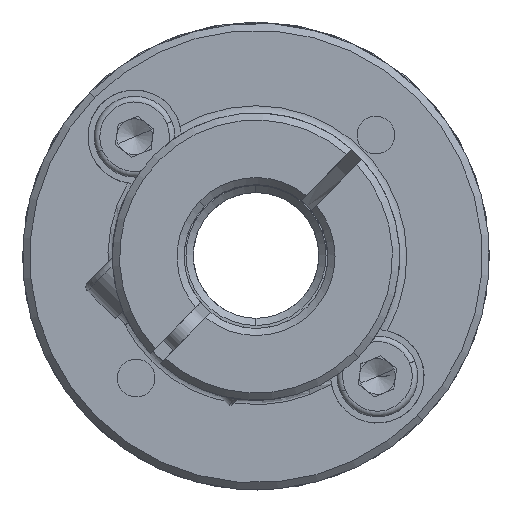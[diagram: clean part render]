
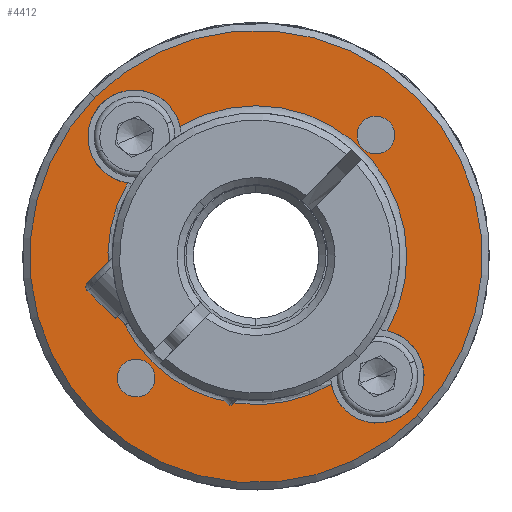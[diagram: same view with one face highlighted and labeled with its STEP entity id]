
A CAD part, front view. The second image highlights one B-rep face of the part: STEP entity #4412.
In plain terms, the highlighted planar face has unit normal (0, -1, 0).
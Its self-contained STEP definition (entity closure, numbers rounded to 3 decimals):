
#62 = ORIENTED_EDGE ( 'NONE', *, *, #12943, .T. ) ;
#64 = CIRCLE ( 'NONE', #1398, 2.6 ) ;
#88 = EDGE_CURVE ( 'NONE', #8868, #7809, #2584, .T. ) ;
#201 = ORIENTED_EDGE ( 'NONE', *, *, #5461, .T. ) ;
#279 = CIRCLE ( 'NONE', #18531, 2.6 ) ;
#346 = CIRCLE ( 'NONE', #2376, 8.4 ) ;
#487 = DIRECTION ( 'NONE',  ( -0.712, 0., 0.702 ) ) ;
#559 = CARTESIAN_POINT ( 'NONE',  ( 0.121, -18.979, 18.838 ) ) ;
#600 = DIRECTION ( 'NONE',  ( -0.712, 0., 0.702 ) ) ;
#619 = DIRECTION ( 'NONE',  ( 0., 1., 0. ) ) ;
#1398 = AXIS2_PLACEMENT_3D ( 'NONE', #8048, #619, #6461 ) ;
#1499 = DIRECTION ( 'NONE',  ( 0., -1., 0. ) ) ;
#1507 = CIRCLE ( 'NONE', #8305, 12.6 ) ;
#1754 = ORIENTED_EDGE ( 'NONE', *, *, #6073, .T. ) ;
#1893 = CARTESIAN_POINT ( 'NONE',  ( -8.304, -18.979, 33.196 ) ) ;
#1981 = CARTESIAN_POINT ( 'NONE',  ( 2.598, -18.979, 32.699 ) ) ;
#2114 = AXIS2_PLACEMENT_3D ( 'NONE', #13852, #18579, #6475 ) ;
#2189 = DIRECTION ( 'NONE',  ( 0., 1., 0. ) ) ;
#2376 = AXIS2_PLACEMENT_3D ( 'NONE', #13027, #2556, #13094 ) ;
#2488 = ORIENTED_EDGE ( 'NONE', *, *, #4144, .T. ) ;
#2556 = DIRECTION ( 'NONE',  ( 0., 1., 0. ) ) ;
#2584 = CIRCLE ( 'NONE', #11885, 2.6 ) ;
#2648 = VERTEX_POINT ( 'NONE', #7858 ) ;
#2820 = PLANE ( 'NONE',  #13988 ) ;
#3046 = CIRCLE ( 'NONE', #17169, 1.05 ) ;
#3145 = FACE_BOUND ( 'NONE', #16873, .T. ) ;
#3356 = CARTESIAN_POINT ( 'NONE',  ( -4.076, -18.979, 25.938 ) ) ;
#3410 = EDGE_CURVE ( 'NONE', #7809, #8041, #346, .T. ) ;
#3579 = DIRECTION ( 'NONE',  ( 0., 1., 0. ) ) ;
#3790 = DIRECTION ( 'NONE',  ( 0., -1., 0. ) ) ;
#3891 = DIRECTION ( 'NONE',  ( -0.712, 0., 0.702 ) ) ;
#3932 = CARTESIAN_POINT ( 'NONE',  ( 3.238, -18.979, 21.805 ) ) ;
#4144 = EDGE_CURVE ( 'NONE', #17570, #2648, #1507, .T. ) ;
#4189 = ORIENTED_EDGE ( 'NONE', *, *, #10184, .T. ) ;
#4412 = ADVANCED_FACE ( 'NONE', ( #18439, #19139, #3145, #14449 ), #2820, .T. ) ;
#4803 = VERTEX_POINT ( 'NONE', #559 ) ;
#4917 = ORIENTED_EDGE ( 'NONE', *, *, #11622, .T. ) ;
#5416 = DIRECTION ( 'NONE',  ( -0.712, 0., 0.702 ) ) ;
#5461 = EDGE_CURVE ( 'NONE', #7695, #10370, #11829, .T. ) ;
#5528 = CIRCLE ( 'NONE', #12970, 1.05 ) ;
#5530 = ORIENTED_EDGE ( 'NONE', *, *, #7556, .T. ) ;
#5566 = ORIENTED_EDGE ( 'NONE', *, *, #8162, .T. ) ;
#6073 = EDGE_CURVE ( 'NONE', #12862, #4803, #279, .T. ) ;
#6203 = ORIENTED_EDGE ( 'NONE', *, *, #3410, .T. ) ;
#6268 = CARTESIAN_POINT ( 'NONE',  ( -10.002, -18.979, 18.439 ) ) ;
#6461 = DIRECTION ( 'NONE',  ( -0.712, 0., 0.702 ) ) ;
#6475 = DIRECTION ( 'NONE',  ( -0.712, 0., 0.702 ) ) ;
#6684 = AXIS2_PLACEMENT_3D ( 'NONE', #3356, #13753, #10719 ) ;
#7339 = ORIENTED_EDGE ( 'NONE', *, *, #11177, .T. ) ;
#7556 = EDGE_CURVE ( 'NONE', #10370, #7695, #3046, .T. ) ;
#7695 = VERTEX_POINT ( 'NONE', #11848 ) ;
#7745 = DIRECTION ( 'NONE',  ( 0., 1., 0. ) ) ;
#7809 = VERTEX_POINT ( 'NONE', #1893 ) ;
#7858 = CARTESIAN_POINT ( 'NONE',  ( -13.043, -18.979, 34.789 ) ) ;
#8041 = VERTEX_POINT ( 'NONE', #3932 ) ;
#8048 = CARTESIAN_POINT ( 'NONE',  ( 2.686, -18.979, 19.264 ) ) ;
#8162 = EDGE_CURVE ( 'NONE', #16141, #8868, #12884, .T. ) ;
#8168 = CARTESIAN_POINT ( 'NONE',  ( -10.749, -18.979, 19.176 ) ) ;
#8294 = DIRECTION ( 'NONE',  ( 0., 1., 0. ) ) ;
#8305 = AXIS2_PLACEMENT_3D ( 'NONE', #19498, #1499, #12004 ) ;
#8486 = DIRECTION ( 'NONE',  ( -0.712, 0., 0.702 ) ) ;
#8868 = VERTEX_POINT ( 'NONE', #13772 ) ;
#9071 = CIRCLE ( 'NONE', #19103, 8.247 ) ;
#9170 = EDGE_LOOP ( 'NONE', ( #2488, #62 ) ) ;
#9355 = CARTESIAN_POINT ( 'NONE',  ( -11.23, -18.979, 30.041 ) ) ;
#9362 = AXIS2_PLACEMENT_3D ( 'NONE', #11692, #10289, #16183 ) ;
#9520 = DIRECTION ( 'NONE',  ( 0., 1., 0. ) ) ;
#9932 = CARTESIAN_POINT ( 'NONE',  ( 4.892, -18.979, 17.087 ) ) ;
#10113 = CARTESIAN_POINT ( 'NONE',  ( 2.598, -18.979, 32.699 ) ) ;
#10118 = CARTESIAN_POINT ( 'NONE',  ( 1.85, -18.979, 33.437 ) ) ;
#10184 = EDGE_CURVE ( 'NONE', #4803, #16141, #9071, .T. ) ;
#10289 = DIRECTION ( 'NONE',  ( 0., 1., 0. ) ) ;
#10370 = VERTEX_POINT ( 'NONE', #10118 ) ;
#10719 = DIRECTION ( 'NONE',  ( -0.712, 0., 0.702 ) ) ;
#10720 = AXIS2_PLACEMENT_3D ( 'NONE', #1981, #2189, #600 ) ;
#11177 = EDGE_CURVE ( 'NONE', #18863, #18883, #14486, .T. ) ;
#11515 = CARTESIAN_POINT ( 'NONE',  ( -4.076, -18.979, 25.938 ) ) ;
#11622 = EDGE_CURVE ( 'NONE', #18883, #18863, #5528, .T. ) ;
#11692 = CARTESIAN_POINT ( 'NONE',  ( -10.837, -18.979, 32.611 ) ) ;
#11829 = CIRCLE ( 'NONE', #10720, 1.05 ) ;
#11848 = CARTESIAN_POINT ( 'NONE',  ( 3.345, -18.979, 31.962 ) ) ;
#11885 = AXIS2_PLACEMENT_3D ( 'NONE', #16265, #7745, #18786 ) ;
#12004 = DIRECTION ( 'NONE',  ( -0.712, 0., 0.702 ) ) ;
#12489 = EDGE_CURVE ( 'NONE', #8041, #12862, #64, .T. ) ;
#12862 = VERTEX_POINT ( 'NONE', #17900 ) ;
#12884 = CIRCLE ( 'NONE', #9362, 2.6 ) ;
#12933 = EDGE_LOOP ( 'NONE', ( #201, #5530 ) ) ;
#12943 = EDGE_CURVE ( 'NONE', #2648, #17570, #13688, .T. ) ;
#12970 = AXIS2_PLACEMENT_3D ( 'NONE', #8168, #3579, #487 ) ;
#13017 = ORIENTED_EDGE ( 'NONE', *, *, #88, .T. ) ;
#13027 = CARTESIAN_POINT ( 'NONE',  ( -4.076, -18.979, 25.938 ) ) ;
#13094 = DIRECTION ( 'NONE',  ( -0.712, 0., 0.702 ) ) ;
#13607 = CARTESIAN_POINT ( 'NONE',  ( -4.076, -18.979, 25.938 ) ) ;
#13688 = CIRCLE ( 'NONE', #6684, 12.6 ) ;
#13753 = DIRECTION ( 'NONE',  ( 0., -1., 0. ) ) ;
#13772 = CARTESIAN_POINT ( 'NONE',  ( -12.688, -18.979, 34.437 ) ) ;
#13852 = CARTESIAN_POINT ( 'NONE',  ( -10.749, -18.979, 19.176 ) ) ;
#13988 = AXIS2_PLACEMENT_3D ( 'NONE', #13607, #3790, #5416 ) ;
#14449 = FACE_BOUND ( 'NONE', #17807, .T. ) ;
#14486 = CIRCLE ( 'NONE', #2114, 1.05 ) ;
#16141 = VERTEX_POINT ( 'NONE', #9355 ) ;
#16183 = DIRECTION ( 'NONE',  ( -0.712, 0., 0.702 ) ) ;
#16265 = CARTESIAN_POINT ( 'NONE',  ( -10.837, -18.979, 32.611 ) ) ;
#16267 = DIRECTION ( 'NONE',  ( 0., 1., 0. ) ) ;
#16873 = EDGE_LOOP ( 'NONE', ( #4917, #7339 ) ) ;
#16937 = CARTESIAN_POINT ( 'NONE',  ( -11.496, -18.979, 19.914 ) ) ;
#17169 = AXIS2_PLACEMENT_3D ( 'NONE', #10113, #16267, #8486 ) ;
#17570 = VERTEX_POINT ( 'NONE', #9932 ) ;
#17807 = EDGE_LOOP ( 'NONE', ( #19185, #1754, #4189, #5566, #13017, #6203 ) ) ;
#17900 = CARTESIAN_POINT ( 'NONE',  ( 4.536, -18.979, 17.438 ) ) ;
#18439 = FACE_OUTER_BOUND ( 'NONE', #9170, .T. ) ;
#18531 = AXIS2_PLACEMENT_3D ( 'NONE', #18782, #9520, #18727 ) ;
#18579 = DIRECTION ( 'NONE',  ( 0., 1., 0. ) ) ;
#18727 = DIRECTION ( 'NONE',  ( -0.712, 0., 0.702 ) ) ;
#18782 = CARTESIAN_POINT ( 'NONE',  ( 2.686, -18.979, 19.264 ) ) ;
#18786 = DIRECTION ( 'NONE',  ( -0.712, 0., 0.702 ) ) ;
#18863 = VERTEX_POINT ( 'NONE', #16937 ) ;
#18883 = VERTEX_POINT ( 'NONE', #6268 ) ;
#19103 = AXIS2_PLACEMENT_3D ( 'NONE', #11515, #8294, #3891 ) ;
#19139 = FACE_BOUND ( 'NONE', #12933, .T. ) ;
#19185 = ORIENTED_EDGE ( 'NONE', *, *, #12489, .T. ) ;
#19498 = CARTESIAN_POINT ( 'NONE',  ( -4.076, -18.979, 25.938 ) ) ;
